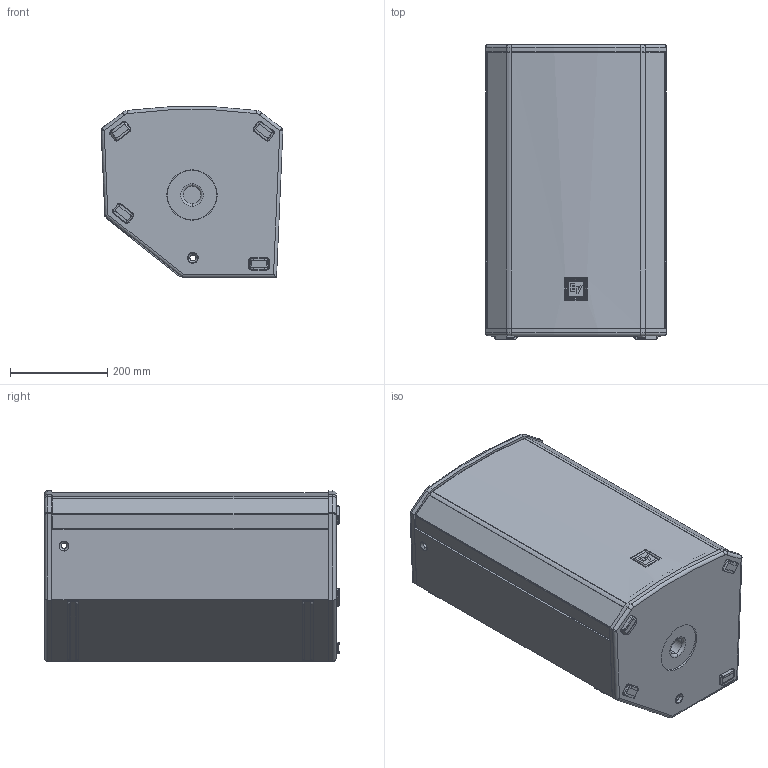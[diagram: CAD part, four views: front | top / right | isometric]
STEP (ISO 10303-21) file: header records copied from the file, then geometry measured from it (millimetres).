
FILE_DESCRIPTION (( 'STEP AP214' ), '1' );
FILE_NAME ('EKX-12 3D CAD.STEP', '2022-10-07T14:39:40', ( '' ), ( '' ), 'SwSTEP 2.0', 'SolidWorks 2021', '' );
FILE_SCHEMA (( 'AUTOMOTIVE_DESIGN' ));
Length unit declared in the file: millimetre
Products named in the file (17): EKX-12 Amplifier Display Glass; EKX-12 Amplifier Power Switch; EKX-12 EV Logo; EKX-12 Amplifier Knob 2; EKX-12 Grille; EKX-12 Amplifier Knob 1; EKX-12 Pole Mount; EKX-12 Handle; EKX-12 Monitor Foot; EKX-12 Amplifier Panel; EKX-12 Enclosure; EKX-12 Amplifier Cord Receptacle; EKX-12 Amplifier XLR Female; EKX-12 Amplifier RCA Jack; EKX-12 Amplifier XLR Male; EKX-12 Foot; EKX-12 3D CAD
Assembly tree (22 placements, depth 2):
  EKX-12 3D CAD
    EKX-12 Enclosure
    EKX-12 Monitor Foot  x2
    EKX-12 Foot  x4
    EKX-12 Pole Mount
    EKX-12 Handle
    EKX-12 Amplifier Panel
    EKX-12 Amplifier Display Glass
    EKX-12 Amplifier XLR Female
    EKX-12 Amplifier XLR Male  x2
    EKX-12 Amplifier RCA Jack
    EKX-12 Amplifier Knob 2
    EKX-12 Amplifier Knob 1  x2
    EKX-12 Amplifier Cord Receptacle
    EKX-12 Amplifier Power Switch
    EKX-12 Grille
    EKX-12 EV Logo
Bounding box: 374.52 x 606.82 x 351.61 mm (x, y, z)
Volume: 11597049.2 mm3; surface area: 2631175.6 mm2
Topology: 29 solids, 29 shells, 1199 faces, 3021 edges, 1912 vertices
Faces by surface type: plane 527, cylinder 417, bspline 137, cone 50, torus 44, sphere 24
Entity records: 40084 total; most frequent: CARTESIAN_POINT 12709, ORIENTED_EDGE 4918, DIRECTION 4701, EDGE_CURVE 2459, AXIS2_PLACEMENT_3D 1654, VERTEX_POINT 1557, VECTOR 1393, LINE 1393
